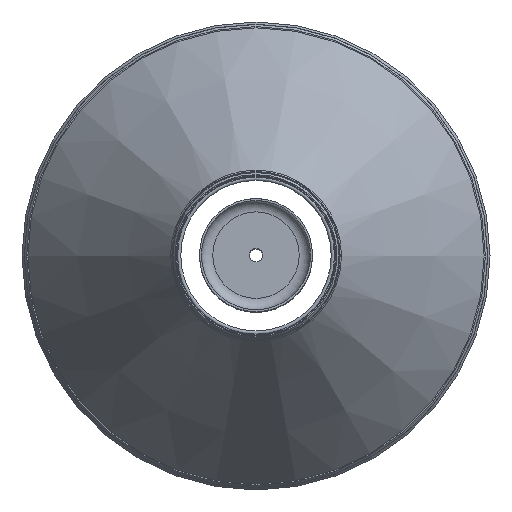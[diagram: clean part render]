
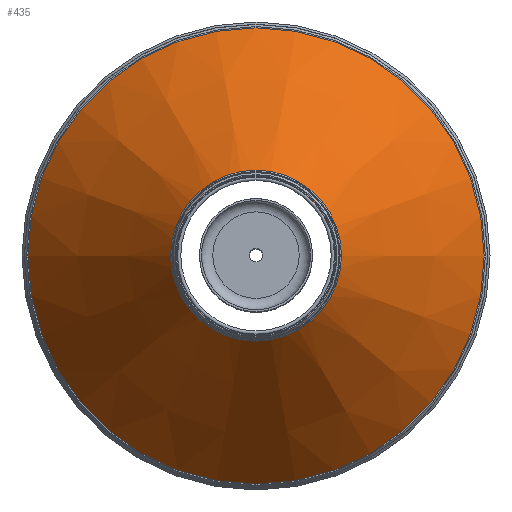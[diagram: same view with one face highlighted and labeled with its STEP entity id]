
A CAD part, top view. The second image highlights one B-rep face of the part: STEP entity #435.
In plain terms, the highlighted conical face has half-angle 35.707 degrees and reference radius 175 mm.
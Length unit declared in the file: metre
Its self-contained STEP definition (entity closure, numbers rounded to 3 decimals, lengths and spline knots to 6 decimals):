
#435 = ADVANCED_FACE( '', ( #501, #502 ), #503, .T. );
#501 = FACE_OUTER_BOUND( '', #622, .T. );
#502 = FACE_BOUND( '', #623, .T. );
#503 = CONICAL_SURFACE( '', #624, 0.175, 0.623 );
#622 = EDGE_LOOP( '', ( #767 ) );
#623 = EDGE_LOOP( '', ( #768 ) );
#624 = AXIS2_PLACEMENT_3D( '', #769, #770, #771 );
#767 = ORIENTED_EDGE( '', *, *, #922, .F. );
#768 = ORIENTED_EDGE( '', *, *, #923, .T. );
#769 = CARTESIAN_POINT( '', ( 0., 0., -0.057917 ) );
#770 = DIRECTION( '', ( 0., 0., -1. ) );
#771 = DIRECTION( '', ( -1., 0., 0. ) );
#922 = EDGE_CURVE( '', #974, #974, #975, .F. );
#923 = EDGE_CURVE( '', #976, #976, #977, .T. );
#974 = VERTEX_POINT( '', #1298 );
#975 = CIRCLE( '', #1299, 0.171406 );
#976 = VERTEX_POINT( '', #1300 );
#977 = CIRCLE( '', #1301, 0.06 );
#1298 = CARTESIAN_POINT( '', ( 0.171406, 0., -0.052917 ) );
#1299 = AXIS2_PLACEMENT_3D( '', #1378, #1379, #1380 );
#1300 = CARTESIAN_POINT( '', ( -0.06, 0., 0.102083 ) );
#1301 = AXIS2_PLACEMENT_3D( '', #1381, #1382, #1383 );
#1378 = CARTESIAN_POINT( '', ( 0., 0., -0.052917 ) );
#1379 = DIRECTION( '', ( 0., 0., 1. ) );
#1380 = DIRECTION( '', ( 1., 0., 0. ) );
#1381 = CARTESIAN_POINT( '', ( 0., 0., 0.102083 ) );
#1382 = DIRECTION( '', ( 0., 0., -1. ) );
#1383 = DIRECTION( '', ( -1., 0., 0. ) );
